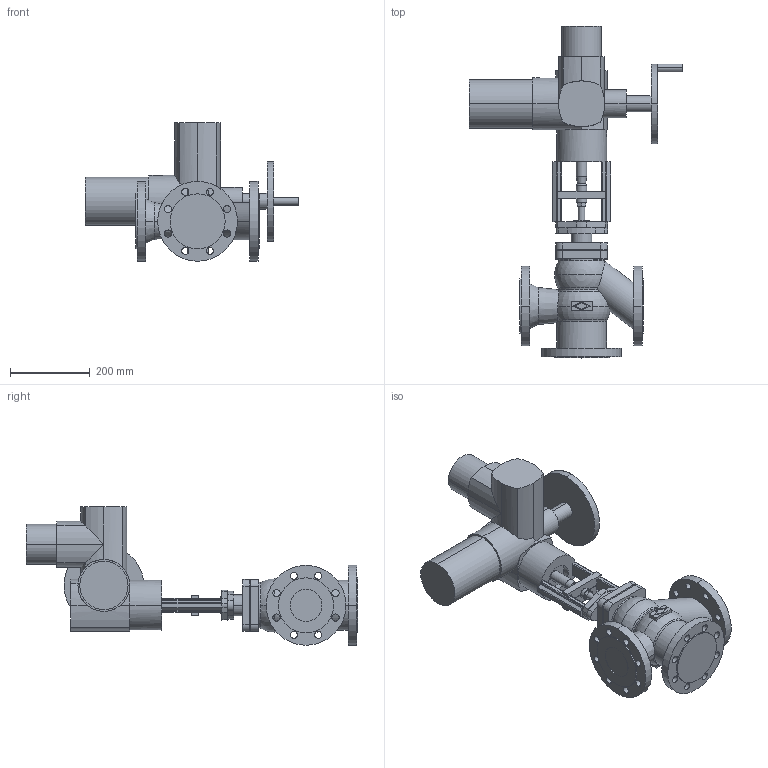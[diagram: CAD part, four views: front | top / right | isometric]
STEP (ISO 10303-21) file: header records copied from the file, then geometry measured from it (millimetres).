
FILE_DESCRIPTION(('OneSpaceDesigner STEP Export'),'2;1');
FILE_NAME('c000003177.stp','2007-01-24T11:02:43',(''),(''),'OneSpace Designer STEP processor for AP214 (Solid Model)','OneSpace Designer 14.00B 27-May-2006 (C) CoCreate Software GmbH','');
FILE_SCHEMA(('AUTOMOTIVE_DESIGN { 1 0 10303 214 1 1 1 1 }'));
Length unit declared in the file: millimetre
Products named in the file (2): 1; 2
Bounding box: 536 x 831.5 x 347 mm (x, y, z)
Volume: 17413199.8 mm3; surface area: 936323.6 mm2
Topology: 2 solids, 2 shells, 321 faces, 836 edges, 533 vertices
Faces by surface type: cylinder 168, plane 131, torus 10, cone 8, sphere 4
Entity records: 9399 total; most frequent: CARTESIAN_POINT 2103, ORIENTED_EDGE 1664, DIRECTION 1326, EDGE_CURVE 832, VERTEX_POINT 533, AXIS2_PLACEMENT_3D 457, VECTOR 412, LINE 412
